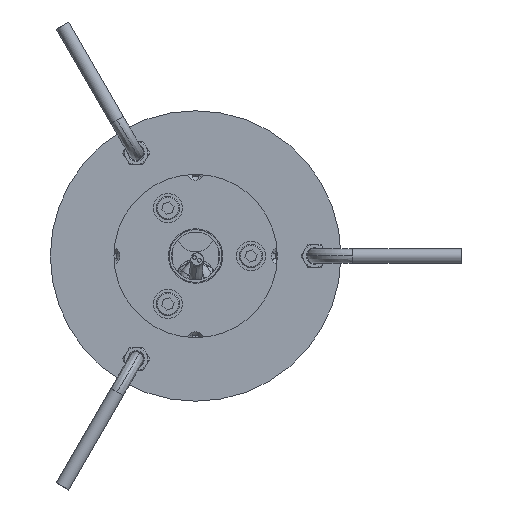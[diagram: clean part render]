
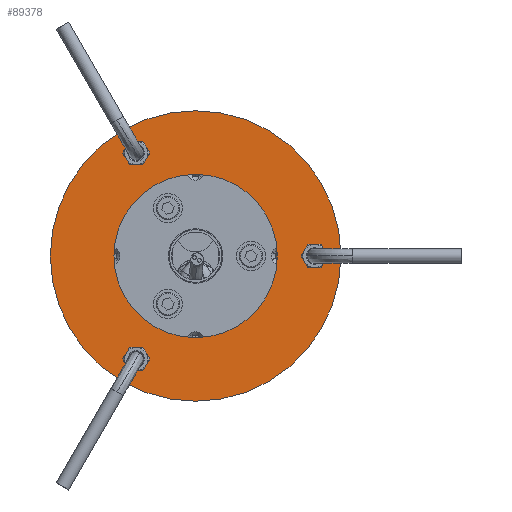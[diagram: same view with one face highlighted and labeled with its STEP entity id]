
A CAD part, front view. The second image highlights one B-rep face of the part: STEP entity #89378.
In plain terms, the highlighted planar face has unit normal (0, -1, 0) as drawn and (0, 0, 1) by its records, which use the part's own axes.
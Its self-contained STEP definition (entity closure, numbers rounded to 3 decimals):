
#89149=CARTESIAN_POINT('',(0.,0.,1.5));
#89150=DIRECTION('',(0.,0.,1.));
#89151=DIRECTION('',(1.,0.,0.));
#89152=AXIS2_PLACEMENT_3D('',#89149,#89150,#89151);
#89154=CARTESIAN_POINT('',(0.,0.,1.5));
#89155=DIRECTION('',(0.,0.,1.));
#89156=DIRECTION('',(-1.,0.,0.));
#89157=AXIS2_PLACEMENT_3D('',#89154,#89155,#89156);
#89159=CARTESIAN_POINT('',(0.,0.,1.5));
#89160=DIRECTION('',(0.,0.,-1.));
#89161=DIRECTION('',(1.,0.,0.));
#89162=AXIS2_PLACEMENT_3D('',#89159,#89160,#89161);
#89164=CARTESIAN_POINT('',(0.,0.,1.5));
#89165=DIRECTION('',(0.,0.,-1.));
#89166=DIRECTION('',(-1.,0.,0.));
#89167=AXIS2_PLACEMENT_3D('',#89164,#89165,#89166);
#89169=CARTESIAN_POINT('',(0.,-65.5,1.5));
#89170=DIRECTION('',(0.,0.,-1.));
#89171=DIRECTION('',(1.,0.,0.));
#89172=AXIS2_PLACEMENT_3D('',#89169,#89170,#89171);
#89174=CARTESIAN_POINT('',(0.,-65.5,1.5));
#89175=DIRECTION('',(0.,0.,-1.));
#89176=DIRECTION('',(-1.,0.,0.));
#89177=AXIS2_PLACEMENT_3D('',#89174,#89175,#89176);
#89179=CARTESIAN_POINT('',(-56.725,32.75,1.5));
#89180=DIRECTION('',(0.,0.,-1.));
#89181=DIRECTION('',(1.,0.,0.));
#89182=AXIS2_PLACEMENT_3D('',#89179,#89180,#89181);
#89184=CARTESIAN_POINT('',(-56.725,32.75,1.5));
#89185=DIRECTION('',(0.,0.,-1.));
#89186=DIRECTION('',(-1.,0.,0.));
#89187=AXIS2_PLACEMENT_3D('',#89184,#89185,#89186);
#89189=CARTESIAN_POINT('',(56.725,32.75,1.5));
#89190=DIRECTION('',(0.,0.,-1.));
#89191=DIRECTION('',(1.,0.,0.));
#89192=AXIS2_PLACEMENT_3D('',#89189,#89190,#89191);
#89194=CARTESIAN_POINT('',(56.725,32.75,1.5));
#89195=DIRECTION('',(0.,0.,-1.));
#89196=DIRECTION('',(-1.,0.,0.));
#89197=AXIS2_PLACEMENT_3D('',#89194,#89195,#89196);
#89227=CARTESIAN_POINT('',(-45.,0.,1.5));
#89228=CARTESIAN_POINT('',(45.,0.,1.5));
#89229=VERTEX_POINT('',#89227);
#89230=VERTEX_POINT('',#89228);
#89239=CARTESIAN_POINT('',(-61.225,32.75,1.5));
#89240=CARTESIAN_POINT('',(-52.225,32.75,1.5));
#89241=VERTEX_POINT('',#89239);
#89242=VERTEX_POINT('',#89240);
#89247=CARTESIAN_POINT('',(4.5,-65.5,1.5));
#89248=CARTESIAN_POINT('',(-4.5,-65.5,1.5));
#89249=VERTEX_POINT('',#89247);
#89250=VERTEX_POINT('',#89248);
#89255=CARTESIAN_POINT('',(61.225,32.75,1.5));
#89256=VERTEX_POINT('',#89255);
#89257=CARTESIAN_POINT('',(52.225,32.75,1.5));
#89258=VERTEX_POINT('',#89257);
#89263=CARTESIAN_POINT('',(80.,0.,1.5));
#89264=CARTESIAN_POINT('',(-80.,0.,1.5));
#89265=VERTEX_POINT('',#89263);
#89266=VERTEX_POINT('',#89264);
#89346=CARTESIAN_POINT('',(0.,0.,1.5));
#89347=DIRECTION('',(0.,0.,1.));
#89348=DIRECTION('',(1.,0.,0.));
#89349=AXIS2_PLACEMENT_3D('',#89346,#89347,#89348);
#89350=PLANE('',#89349);
#89351=ORIENTED_EDGE('',*,*,#89326,.F.);
#89352=ORIENTED_EDGE('',*,*,#89339,.F.);
#89353=EDGE_LOOP('',(#89351,#89352));
#89354=FACE_OUTER_BOUND('',#89353,.F.);
#89356=ORIENTED_EDGE('',*,*,#89355,.F.);
#89358=ORIENTED_EDGE('',*,*,#89357,.F.);
#89359=EDGE_LOOP('',(#89356,#89358));
#89360=FACE_BOUND('',#89359,.F.);
#89362=ORIENTED_EDGE('',*,*,#89361,.F.);
#89364=ORIENTED_EDGE('',*,*,#89363,.F.);
#89365=EDGE_LOOP('',(#89362,#89364));
#89366=FACE_BOUND('',#89365,.F.);
#89367=ORIENTED_EDGE('',*,*,#89276,.F.);
#89369=ORIENTED_EDGE('',*,*,#89368,.F.);
#89370=EDGE_LOOP('',(#89367,#89369));
#89371=FACE_BOUND('',#89370,.F.);
#89373=ORIENTED_EDGE('',*,*,#89372,.F.);
#89375=ORIENTED_EDGE('',*,*,#89374,.F.);
#89376=EDGE_LOOP('',(#89373,#89375));
#89377=FACE_BOUND('',#89376,.F.);
#89378=ADVANCED_FACE('',(#89354,#89360,#89366,#89371,#89377),#89350,.T.);
#89153=CIRCLE('',#89152,80.);
#89158=CIRCLE('',#89157,80.);
#89163=CIRCLE('',#89162,45.);
#89168=CIRCLE('',#89167,45.);
#89173=CIRCLE('',#89172,4.5);
#89178=CIRCLE('',#89177,4.5);
#89183=CIRCLE('',#89182,4.5);
#89188=CIRCLE('',#89187,4.5);
#89193=CIRCLE('',#89192,4.5);
#89198=CIRCLE('',#89197,4.5);
#89276=EDGE_CURVE('',#89242,#89241,#89183,.T.);
#89326=EDGE_CURVE('',#89265,#89266,#89153,.T.);
#89339=EDGE_CURVE('',#89266,#89265,#89158,.T.);
#89355=EDGE_CURVE('',#89230,#89229,#89163,.T.);
#89357=EDGE_CURVE('',#89229,#89230,#89168,.T.);
#89361=EDGE_CURVE('',#89249,#89250,#89173,.T.);
#89363=EDGE_CURVE('',#89250,#89249,#89178,.T.);
#89368=EDGE_CURVE('',#89241,#89242,#89188,.T.);
#89372=EDGE_CURVE('',#89256,#89258,#89193,.T.);
#89374=EDGE_CURVE('',#89258,#89256,#89198,.T.);
